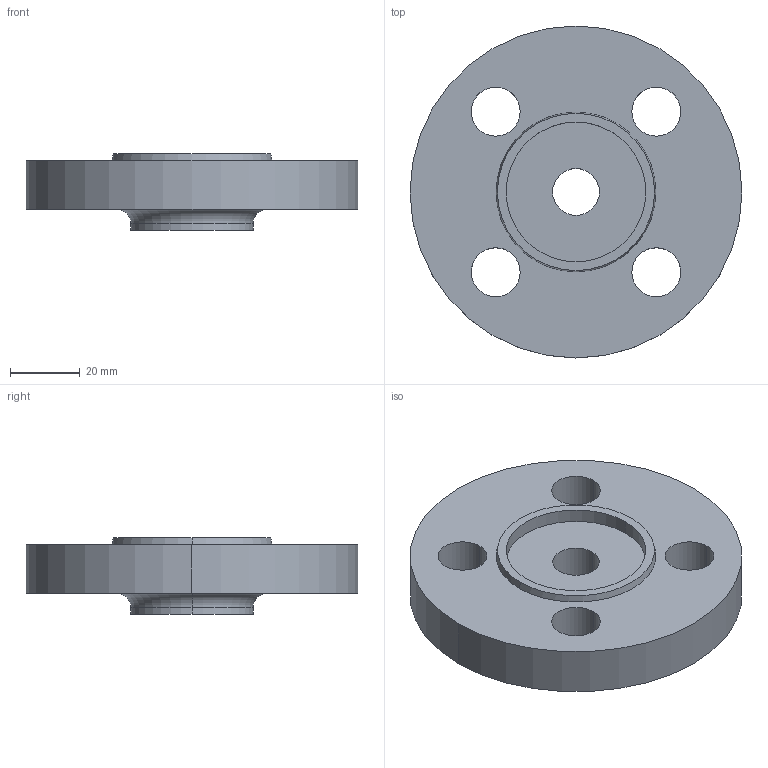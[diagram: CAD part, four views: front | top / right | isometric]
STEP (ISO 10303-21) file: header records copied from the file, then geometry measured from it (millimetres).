
FILE_DESCRIPTION (( 'STEP AP214' ), '1' );
FILE_NAME ('PN40 DN15 Type 13 - Type F Face.STEP', '2018-12-29T14:33:31', ( '' ), ( '' ), 'SwSTEP 2.0', 'SolidWorks 2019', '' );
FILE_SCHEMA (( 'AUTOMOTIVE_DESIGN' ));
Length unit declared in the file: millimetre
Products named in the file (1): PN40 DN15 Type 13 - Type F Face
Bounding box: 95 x 95 x 22 mm (x, y, z)
Volume: 92459.1 mm3; surface area: 21281.5 mm2
Topology: 1 solids, 1 shells, 25 faces, 58 edges, 38 vertices
Faces by surface type: cylinder 16, plane 5, torus 2, cone 2
Entity records: 790 total; most frequent: DIRECTION 150, CARTESIAN_POINT 122, ORIENTED_EDGE 116, AXIS2_PLACEMENT_3D 66, EDGE_CURVE 58, CIRCLE 40, VERTEX_POINT 38, EDGE_LOOP 38
